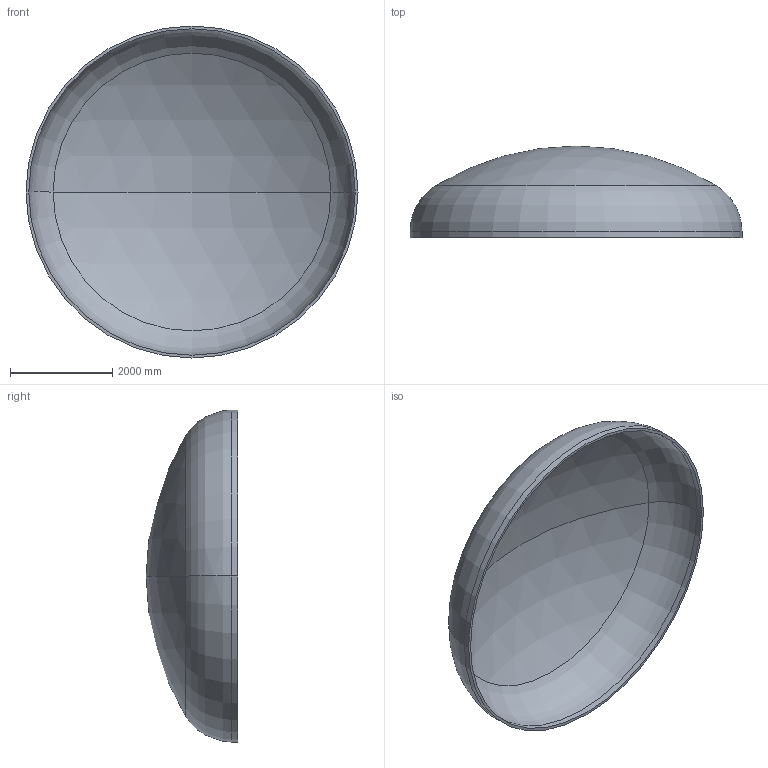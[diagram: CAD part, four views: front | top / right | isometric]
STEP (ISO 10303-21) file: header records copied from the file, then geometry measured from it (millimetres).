
FILE_DESCRIPTION (( 'STEP AP203' ), '1' );
FILE_NAME ('DIN 28013 Korbbogenform_-_Boden DIN 28013 - 6500 x 120 - I - s=54.step', '2016-07-04T10:42:33', ( '' ), ( '' ), 'SwSTEP 2.0', 'SolidWorks 2013', '' );
FILE_SCHEMA (( 'CONFIG_CONTROL_DESIGN' ));
Length unit declared in the file: millimetre
Products named in the file (1): DIN 28013 Korbbogenform_-_Boden DIN 28013 - 6500 x 120 - I - s=54
Bounding box: 6500 x 1793.83 x 6500 mm (x, y, z)
Volume: 2585377359.7 mm3; surface area: 96854325.4 mm2
Topology: 1 solids, 1 shells, 13 faces, 24 edges, 14 vertices
Faces by surface type: torus 4, cylinder 4, sphere 4, plane 1
Entity records: 407 total; most frequent: DIRECTION 72, CARTESIAN_POINT 52, ORIENTED_EDGE 48, AXIS2_PLACEMENT_3D 34, EDGE_CURVE 24, CIRCLE 20, VERTEX_POINT 14, EDGE_LOOP 14
